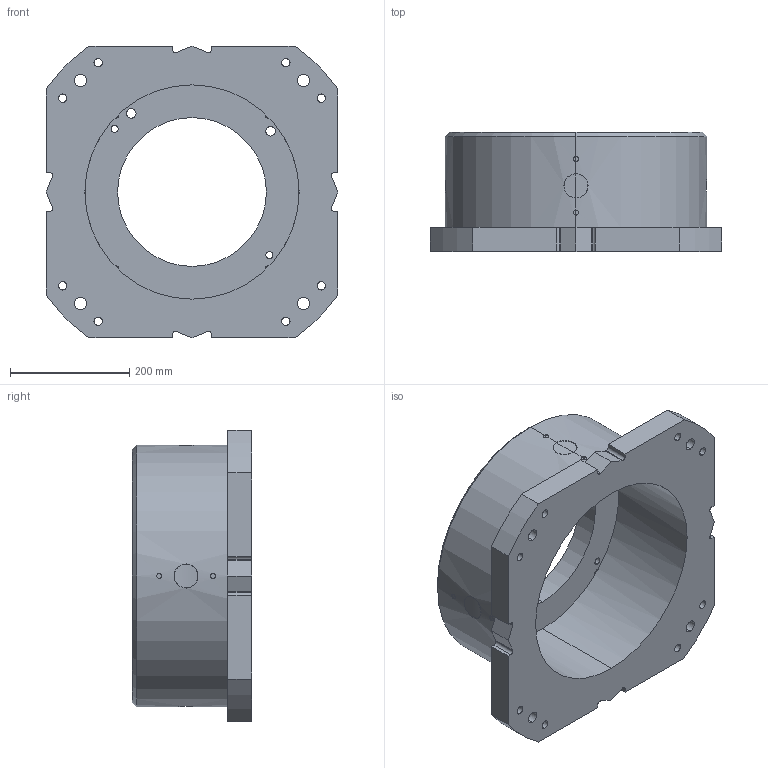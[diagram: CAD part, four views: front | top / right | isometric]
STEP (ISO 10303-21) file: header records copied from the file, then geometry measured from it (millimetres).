
FILE_DESCRIPTION (( 'STEP AP214' ), '1' );
FILE_NAME ('H-200.STEP', '2025-12-05T13:25:12', ( '' ), ( '' ), 'SwSTEP 2.0', 'SolidWorks 2022', '' );
FILE_SCHEMA (( 'AUTOMOTIVE_DESIGN' ));
Length unit declared in the file: millimetre
Products named in the file (1): H-200
Bounding box: 490 x 200 x 490 mm (x, y, z)
Volume: 14908257.4 mm3; surface area: 895933.6 mm2
Topology: 1 solids, 1 shells, 139 faces, 389 edges, 256 vertices
Faces by surface type: cylinder 97, plane 32, bspline 8, cone 2
Entity records: 7638 total; most frequent: CARTESIAN_POINT 3491, ORIENTED_EDGE 778, DIRECTION 729, EDGE_CURVE 389, AXIS2_PLACEMENT_3D 282, VERTEX_POINT 256, EDGE_LOOP 185, LINE 165
